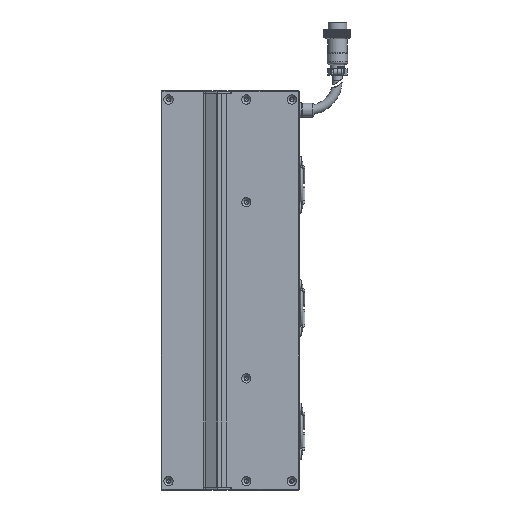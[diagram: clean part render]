
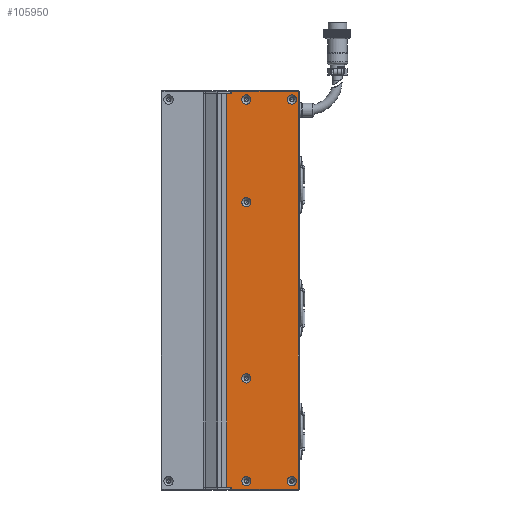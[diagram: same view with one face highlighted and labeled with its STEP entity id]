
A CAD part, left-side view. The second image highlights one B-rep face of the part: STEP entity #105950.
In plain terms, the highlighted planar face has unit normal (-1, 0, 0).
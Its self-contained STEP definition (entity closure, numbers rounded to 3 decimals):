
#305 = ORIENTED_EDGE ( 'NONE', *, *, #17816, .F. ) ;
#1359 = ORIENTED_EDGE ( 'NONE', *, *, #2808, .T. ) ;
#1709 = VERTEX_POINT ( 'NONE', #39977 ) ;
#2273 = FACE_OUTER_BOUND ( 'NONE', #67317, .T. ) ;
#2551 = ORIENTED_EDGE ( 'NONE', *, *, #100380, .F. ) ;
#2808 = EDGE_CURVE ( 'NONE', #25894, #39474, #42549, .T. ) ;
#2979 = DIRECTION ( 'NONE',  ( 0., -1., 0. ) ) ;
#3045 = EDGE_CURVE ( 'NONE', #95450, #95450, #60052, .T. ) ;
#4126 = VERTEX_POINT ( 'NONE', #74067 ) ;
#4233 = VECTOR ( 'NONE', #127411, 1000. ) ;
#4387 = AXIS2_PLACEMENT_3D ( 'NONE', #16888, #27152, #87456 ) ;
#4912 = VERTEX_POINT ( 'NONE', #24841 ) ;
#5463 = FACE_BOUND ( 'NONE', #126400, .T. ) ;
#7682 = EDGE_CURVE ( 'NONE', #4126, #71138, #115778, .T. ) ;
#9528 = VERTEX_POINT ( 'NONE', #38519 ) ;
#9696 = EDGE_CURVE ( 'NONE', #130374, #19538, #77538, .T. ) ;
#10051 = CARTESIAN_POINT ( 'NONE',  ( -24.998, -26.5, 134. ) ) ;
#11987 = ORIENTED_EDGE ( 'NONE', *, *, #27108, .F. ) ;
#15074 = CIRCLE ( 'NONE', #4387, 3.15 ) ;
#16888 = CARTESIAN_POINT ( 'NONE',  ( -24.998, -36.5, 60. ) ) ;
#17816 = EDGE_CURVE ( 'NONE', #1709, #1709, #44787, .T. ) ;
#18969 = AXIS2_PLACEMENT_3D ( 'NONE', #29158, #69951, #90287 ) ;
#19538 = VERTEX_POINT ( 'NONE', #10051 ) ;
#21277 = AXIS2_PLACEMENT_3D ( 'NONE', #46342, #76140, #117026 ) ;
#24167 = DIRECTION ( 'NONE',  ( 0., 0., 1. ) ) ;
#24573 = DIRECTION ( 'NONE',  ( 0., 0., 1. ) ) ;
#24593 = CARTESIAN_POINT ( 'NONE',  ( -24.998, -36.5, -130. ) ) ;
#24841 = CARTESIAN_POINT ( 'NONE',  ( -24.998, -36.5, -126.85 ) ) ;
#24893 = VERTEX_POINT ( 'NONE', #56990 ) ;
#25894 = VERTEX_POINT ( 'NONE', #44366 ) ;
#27108 = EDGE_CURVE ( 'NONE', #55605, #19538, #125708, .T. ) ;
#27152 = DIRECTION ( 'NONE',  ( -1., 0., 0. ) ) ;
#27301 = ORIENTED_EDGE ( 'NONE', *, *, #3045, .F. ) ;
#27734 = DIRECTION ( 'NONE',  ( -1., 0., 0. ) ) ;
#28927 = VERTEX_POINT ( 'NONE', #93591 ) ;
#29158 = CARTESIAN_POINT ( 'NONE',  ( -24.998, -67.5, 130. ) ) ;
#29288 = ORIENTED_EDGE ( 'NONE', *, *, #31903, .F. ) ;
#30434 = DIRECTION ( 'NONE',  ( 0., 0., 1. ) ) ;
#31903 = EDGE_CURVE ( 'NONE', #28927, #28927, #77696, .T. ) ;
#32407 = EDGE_LOOP ( 'NONE', ( #123244 ) ) ;
#34022 = FACE_BOUND ( 'NONE', #39767, .T. ) ;
#34395 = CARTESIAN_POINT ( 'NONE',  ( -24.998, -23.25, 134. ) ) ;
#35414 = VECTOR ( 'NONE', #83081, 1000. ) ;
#36451 = CARTESIAN_POINT ( 'NONE',  ( -24.998, -26.5, 135.5 ) ) ;
#36744 = VECTOR ( 'NONE', #113586, 1000. ) ;
#36853 = DIRECTION ( 'NONE',  ( 0., 0., -1. ) ) ;
#37943 = DIRECTION ( 'NONE',  ( 0., 0., 1. ) ) ;
#38519 = CARTESIAN_POINT ( 'NONE',  ( -24.998, -36.5, 63.15 ) ) ;
#39474 = VERTEX_POINT ( 'NONE', #109404 ) ;
#39767 = EDGE_LOOP ( 'NONE', ( #29288 ) ) ;
#39977 = CARTESIAN_POINT ( 'NONE',  ( -24.998, -36.5, 133.15 ) ) ;
#42549 = LINE ( 'NONE', #53151, #94919 ) ;
#44070 = CARTESIAN_POINT ( 'NONE',  ( -24.998, -72., 134. ) ) ;
#44366 = CARTESIAN_POINT ( 'NONE',  ( -24.998, -26.5, -135.5 ) ) ;
#44787 = CIRCLE ( 'NONE', #45184, 3.15 ) ;
#45184 = AXIS2_PLACEMENT_3D ( 'NONE', #69954, #70399, #30434 ) ;
#46342 = CARTESIAN_POINT ( 'NONE',  ( -24.998, -36.5, -60. ) ) ;
#53151 = CARTESIAN_POINT ( 'NONE',  ( -24.998, -72.5, -135.5 ) ) ;
#53668 = VECTOR ( 'NONE', #98738, 1000. ) ;
#54769 = CARTESIAN_POINT ( 'NONE',  ( -24.998, -67.5, -130. ) ) ;
#55605 = VERTEX_POINT ( 'NONE', #34395 ) ;
#56990 = CARTESIAN_POINT ( 'NONE',  ( -24.998, -72., 135.5 ) ) ;
#57053 = LINE ( 'NONE', #44070, #109635 ) ;
#57917 = EDGE_CURVE ( 'NONE', #24893, #130374, #73457, .T. ) ;
#60052 = CIRCLE ( 'NONE', #18969, 3.15 ) ;
#60123 = CARTESIAN_POINT ( 'NONE',  ( -24.998, -23.25, -134. ) ) ;
#61639 = CIRCLE ( 'NONE', #65816, 3.15 ) ;
#63102 = CARTESIAN_POINT ( 'NONE',  ( -24.998, -26.5, -127. ) ) ;
#63613 = DIRECTION ( 'NONE',  ( 0., 0., 1. ) ) ;
#65816 = AXIS2_PLACEMENT_3D ( 'NONE', #24593, #95121, #24167 ) ;
#65884 = EDGE_CURVE ( 'NONE', #4912, #4912, #61639, .T. ) ;
#66313 = ORIENTED_EDGE ( 'NONE', *, *, #126263, .F. ) ;
#67238 = AXIS2_PLACEMENT_3D ( 'NONE', #54769, #27734, #24573 ) ;
#67317 = EDGE_LOOP ( 'NONE', ( #116295, #101238, #1359, #107291, #76352, #109966, #11987, #2551 ) ) ;
#69060 = FACE_BOUND ( 'NONE', #32407, .T. ) ;
#69483 = CIRCLE ( 'NONE', #67238, 3.15 ) ;
#69951 = DIRECTION ( 'NONE',  ( -1., 0., 0. ) ) ;
#69954 = CARTESIAN_POINT ( 'NONE',  ( -24.998, -36.5, 130. ) ) ;
#70399 = DIRECTION ( 'NONE',  ( -1., 0., 0. ) ) ;
#71138 = VERTEX_POINT ( 'NONE', #130687 ) ;
#73457 = LINE ( 'NONE', #77580, #81350 ) ;
#74067 = CARTESIAN_POINT ( 'NONE',  ( -24.998, -23.25, -134. ) ) ;
#76140 = DIRECTION ( 'NONE',  ( -1., 0., 0. ) ) ;
#76352 = ORIENTED_EDGE ( 'NONE', *, *, #57917, .T. ) ;
#76864 = PLANE ( 'NONE',  #122269 ) ;
#77538 = LINE ( 'NONE', #116785, #4233 ) ;
#77580 = CARTESIAN_POINT ( 'NONE',  ( -24.998, -72.5, 135.5 ) ) ;
#77696 = CIRCLE ( 'NONE', #21277, 3.15 ) ;
#78017 = DIRECTION ( 'NONE',  ( 0., 1., 0. ) ) ;
#78528 = LINE ( 'NONE', #60123, #131011 ) ;
#81000 = VERTEX_POINT ( 'NONE', #129585 ) ;
#81350 = VECTOR ( 'NONE', #78017, 1000. ) ;
#81444 = EDGE_LOOP ( 'NONE', ( #305 ) ) ;
#81820 = EDGE_LOOP ( 'NONE', ( #66313 ) ) ;
#83081 = DIRECTION ( 'NONE',  ( 0., 0., -1. ) ) ;
#87446 = CARTESIAN_POINT ( 'NONE',  ( -24.998, -72.5, 134. ) ) ;
#87456 = DIRECTION ( 'NONE',  ( 0., 0., 1. ) ) ;
#90287 = DIRECTION ( 'NONE',  ( 0., 0., 1. ) ) ;
#91127 = FACE_BOUND ( 'NONE', #81444, .T. ) ;
#93475 = CARTESIAN_POINT ( 'NONE',  ( -24.998, -72.5, 134. ) ) ;
#93591 = CARTESIAN_POINT ( 'NONE',  ( -24.998, -36.5, -56.85 ) ) ;
#94919 = VECTOR ( 'NONE', #2979, 1000. ) ;
#95121 = DIRECTION ( 'NONE',  ( -1., 0., 0. ) ) ;
#95450 = VERTEX_POINT ( 'NONE', #110670 ) ;
#95676 = ORIENTED_EDGE ( 'NONE', *, *, #65884, .F. ) ;
#97669 = DIRECTION ( 'NONE',  ( 1., 0., 0. ) ) ;
#98738 = DIRECTION ( 'NONE',  ( 0., -1., 0. ) ) ;
#100085 = EDGE_LOOP ( 'NONE', ( #95676 ) ) ;
#100380 = EDGE_CURVE ( 'NONE', #4126, #55605, #78528, .T. ) ;
#100753 = FACE_BOUND ( 'NONE', #100085, .T. ) ;
#101238 = ORIENTED_EDGE ( 'NONE', *, *, #104354, .T. ) ;
#104354 = EDGE_CURVE ( 'NONE', #71138, #25894, #118026, .T. ) ;
#105950 = ADVANCED_FACE ( 'NONE', ( #69060, #100753, #34022, #130978, #91127, #5463, #2273 ), #76864, .F. ) ;
#107291 = ORIENTED_EDGE ( 'NONE', *, *, #112919, .T. ) ;
#109404 = CARTESIAN_POINT ( 'NONE',  ( -24.998, -72., -135.5 ) ) ;
#109635 = VECTOR ( 'NONE', #63613, 1000. ) ;
#109966 = ORIENTED_EDGE ( 'NONE', *, *, #9696, .T. ) ;
#110670 = CARTESIAN_POINT ( 'NONE',  ( -24.998, -67.5, 133.15 ) ) ;
#112919 = EDGE_CURVE ( 'NONE', #39474, #24893, #57053, .T. ) ;
#113586 = DIRECTION ( 'NONE',  ( 0., -1., 0. ) ) ;
#115778 = LINE ( 'NONE', #128970, #53668 ) ;
#116295 = ORIENTED_EDGE ( 'NONE', *, *, #7682, .T. ) ;
#116785 = CARTESIAN_POINT ( 'NONE',  ( -24.998, -26.5, 127. ) ) ;
#117026 = DIRECTION ( 'NONE',  ( 0., 0., 1. ) ) ;
#118026 = LINE ( 'NONE', #63102, #35414 ) ;
#122269 = AXIS2_PLACEMENT_3D ( 'NONE', #87446, #97669, #36853 ) ;
#123224 = EDGE_CURVE ( 'NONE', #81000, #81000, #69483, .T. ) ;
#123244 = ORIENTED_EDGE ( 'NONE', *, *, #123224, .F. ) ;
#125708 = LINE ( 'NONE', #93475, #36744 ) ;
#126263 = EDGE_CURVE ( 'NONE', #9528, #9528, #15074, .T. ) ;
#126400 = EDGE_LOOP ( 'NONE', ( #27301 ) ) ;
#127411 = DIRECTION ( 'NONE',  ( 0., 0., -1. ) ) ;
#128970 = CARTESIAN_POINT ( 'NONE',  ( -24.998, -72.5, -134. ) ) ;
#129585 = CARTESIAN_POINT ( 'NONE',  ( -24.998, -67.5, -126.85 ) ) ;
#130374 = VERTEX_POINT ( 'NONE', #36451 ) ;
#130687 = CARTESIAN_POINT ( 'NONE',  ( -24.998, -26.5, -134. ) ) ;
#130978 = FACE_BOUND ( 'NONE', #81820, .T. ) ;
#131011 = VECTOR ( 'NONE', #37943, 1000. ) ;
